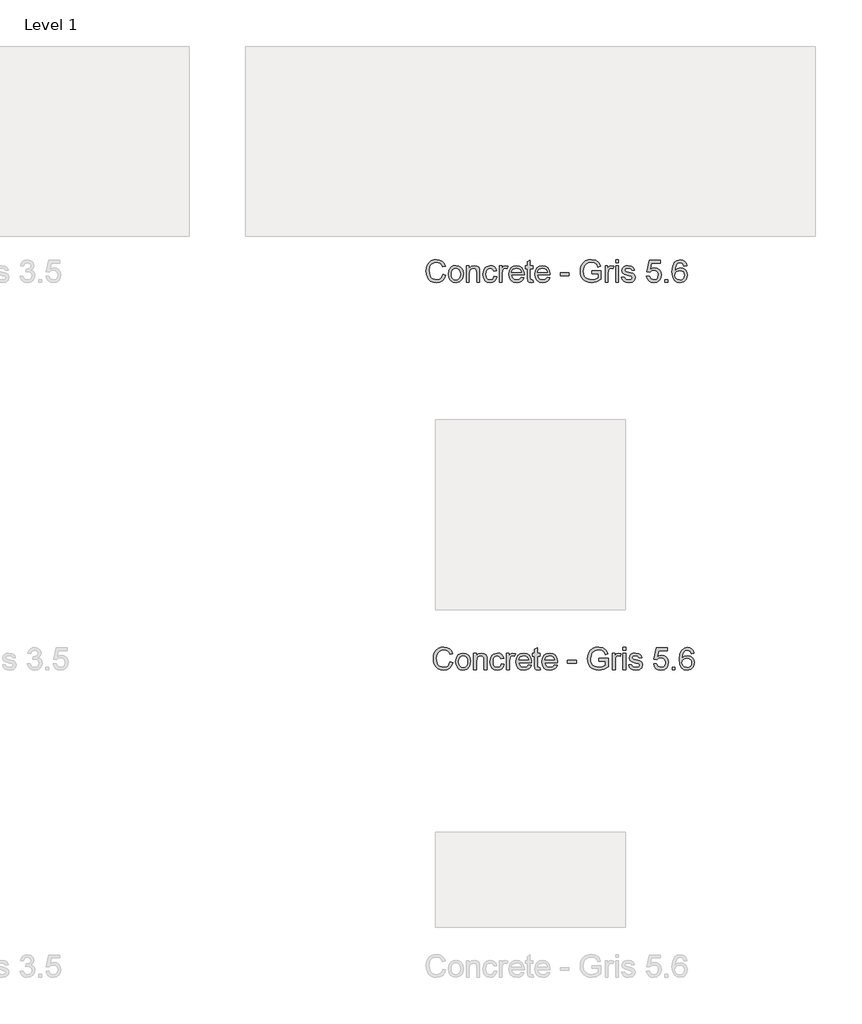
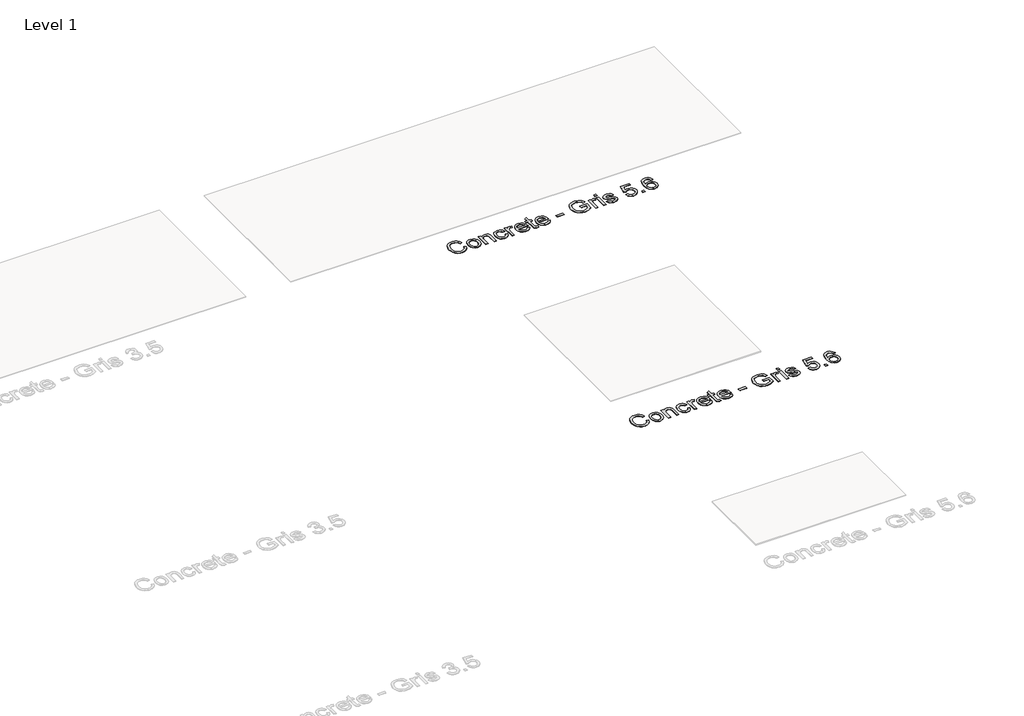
# One storey, part 52 of 80: 2 proxies.
"""IFC4 building model written with IfcOpenShell, lengths in millimetres."""

from ifc_helpers import new_model, si_unit, origin, origin_with_axes, place, context, project, spatial, polyline, outline, extrude, element, save

model = new_model("IFC4")

# Units and contexts
model_context = context("Model", 3, world=origin())
ifc_project = project(units=[si_unit("LENGTHUNIT", "METRE", prefix="MILLI")], contexts=[model_context])

# Site, building, storey
site = spatial("IfcSite", under=ifc_project)
building = spatial("IfcBuilding", under=site)
storey = spatial("IfcBuildingStorey", under=building, Name="Level 1", Elevation=0.0)

# Proxies
placement = place(None, origin())
element("IfcBuildingElementProxy", 1, Name="24\" Arial", ObjectType="24\" Arial", at=placement, inside=storey, context=model_context, shape_type="SweptSolid", body=[
    extrude(outline(polyline([(-15667.0761079, 10790.728562), (-15652.3068771, 10786.9208697), (-15659.121781, 10769.7105332), (-15669.8164925, 10757.1372159), (-15683.8645694, 10749.4461101), (-15700.7395694, 10746.8824082), (-15717.8705791, 10748.822312), (-15731.4751464, 10754.6420236), (-15741.903031, 10764.1396197), (-15749.5039925, 10777.1131774), (-15754.1446175, 10792.3655813), (-15755.6914925, 10808.6997159), (-15753.9426944, 10825.9280813), (-15748.6963002, 10840.8054851), (-15740.2263483, 10852.8595717), (-15728.8068771, 10861.6179851), (-15715.2636079, 10866.9509178), (-15700.4222617, 10868.728562), (-15684.2287521, 10866.4280813), (-15670.840531, 10859.526639), (-15660.6758675, 10848.4497159), (-15654.153031, 10833.6227928), (-15668.9222617, 10830.103562), (-15674.0424541, 10840.8739947), (-15681.0376464, 10848.2622159), (-15689.9943771, 10852.5350524), (-15700.9991848, 10853.9593313), (-15713.684281, 10852.3800044), (-15724.1049541, 10847.6420236), (-15732.012406, 10840.2429851), (-15737.1578387, 10830.6804851), (-15740.9222617, 10808.728562), (-15736.465531, 10783.2862544), (-15730.7684156, 10773.7850524), (-15722.590531, 10767.0314467), (-15702.2107233, 10761.651639), (-15689.8825983, 10763.4833697), (-15679.6097617, 10768.978562), (-15671.8537521, 10778.0795236), (-15667.0761079, 10790.728562)])), origin_with_axes(), (0.0, 0.0, 1.0), 2.0),
    extrude(outline(polyline([(-15637.5376464, 10792.1131774), (-15634.3429348, 10813.0338505), (-15624.7588002, 10827.7381774), (-15612.9174541, 10834.9425044), (-15598.7395694, 10837.3439467), (-15583.2239444, 10834.4196678), (-15570.8309156, 10825.6468313), (-15562.7071175, 10811.7177447), (-15559.9991848, 10793.3247159), (-15564.7876464, 10767.0458697), (-15578.7347617, 10752.1756774), (-15598.7395694, 10746.8824082), (-15614.4426944, 10749.7958697), (-15626.8213002, 10758.5362544), (-15634.8585598, 10772.7574082), (-15637.5376464, 10792.1131774)]), holes=[polyline([(-15622.7684156, 10792.1420236), (-15621.059281, 10778.775437), (-15615.9318771, 10769.2526005), (-15608.215531, 10763.5518794), (-15598.7395694, 10761.651639), (-15589.3068771, 10763.5626967), (-15581.6049541, 10769.2958697), (-15576.4775502, 10778.9449082), (-15574.7684156, 10792.603562), (-15576.4883675, 10805.5807255), (-15581.6482233, 10814.9737544), (-15589.3609637, 10820.6744755), (-15598.7395694, 10822.5747159), (-15608.215531, 10820.681687), (-15615.9318771, 10815.0026005), (-15621.059281, 10805.5013986), (-15622.7684156, 10792.1420236)])]), origin_with_axes(), (0.0, 0.0, 1.0), 2.0),
    extrude(outline(polyline([(-15543.3838002, 10748.728562), (-15543.3838002, 10835.4977928), (-15528.6145694, 10835.4977928), (-15528.6145694, 10823.3824082), (-15517.3213002, 10833.853562), (-15501.903031, 10837.3439467), (-15487.9559156, 10834.5314467), (-15478.4366848, 10827.1468313), (-15474.0088002, 10816.2862544), (-15473.2299541, 10802.0074082), (-15473.2299541, 10748.728562), (-15487.9991848, 10748.728562), (-15487.9991848, 10800.0170236), (-15489.7011079, 10813.0843313), (-15495.715531, 10819.9929851), (-15505.8549541, 10822.5747159), (-15521.8789925, 10816.776639), (-15526.9306752, 10808.3751967), (-15528.6145694, 10794.7670236), (-15528.6145694, 10748.728562), (-15543.3838002, 10748.728562)])), origin_with_axes(), (0.0, 0.0, 1.0), 2.0),
    extrude(outline(polyline([(-15397.5376464, 10780.1131774), (-15382.7684156, 10778.2670236), (-15386.8862041, 10765.1312063), (-15394.6241848, 10755.2045236), (-15405.2539925, 10748.962937), (-15418.0472617, 10746.8824082), (-15433.7575983, 10749.7850524), (-15446.0424541, 10758.4929851), (-15453.9715406, 10772.6239947), (-15456.6145694, 10791.7958697), (-15452.1001464, 10816.3295236), (-15446.403031, 10825.5278409), (-15438.340531, 10832.0939467), (-15418.2491848, 10837.3439467), (-15405.7696175, 10835.541062), (-15395.7924541, 10830.1324082), (-15388.6350021, 10821.4064467), (-15384.6145694, 10809.651639), (-15399.3838002, 10807.8054851), (-15406.2347617, 10818.8679851), (-15418.1338002, 10822.5747159), (-15427.6782714, 10820.7501967), (-15435.2539925, 10815.276639), (-15440.1975021, 10805.8583697), (-15441.8453387, 10792.1997159), (-15440.2335598, 10778.3571678), (-15435.3982233, 10768.9064467), (-15427.9595214, 10763.4653409), (-15418.5376464, 10761.651639), (-15404.6193771, 10766.1804851), (-15397.5376464, 10780.1131774)])), origin_with_axes(), (0.0, 0.0, 1.0), 2.0),
    extrude(outline(polyline([(-15369.8453387, 10748.728562), (-15369.8453387, 10835.4977928), (-15356.9222617, 10835.4977928), (-15356.9222617, 10822.6612544), (-15347.7491848, 10834.4881774), (-15338.5184156, 10837.3439467), (-15323.6914925, 10832.7862544), (-15328.6241848, 10819.5458697), (-15339.0088002, 10822.5747159), (-15347.3597617, 10819.6612544), (-15352.6818771, 10811.5843313), (-15355.0761079, 10794.3343313), (-15355.0761079, 10748.728562), (-15369.8453387, 10748.728562)])), origin_with_axes(), (0.0, 0.0, 1.0), 2.0),
    extrude(outline(polyline([(-15253.7107233, 10774.5747159), (-15239.2299541, 10772.728562), (-15244.4475021, 10761.8175044), (-15252.7732233, 10753.6612544), (-15264.0196175, 10748.5771197), (-15277.9991848, 10746.8824082), (-15295.3285117, 10749.806687), (-15308.6626464, 10758.5795236), (-15317.1650502, 10772.6312063), (-15319.9991848, 10791.3920236), (-15317.1362041, 10810.7838505), (-15308.5472617, 10825.2862544), (-15295.3934156, 10834.3295236), (-15278.8357233, 10837.3439467), (-15262.793656, 10834.3367351), (-15249.9751464, 10825.3151005), (-15241.5700983, 10810.8415428), (-15238.7684156, 10791.478562), (-15238.8549541, 10787.4977928), (-15305.2299541, 10787.4977928), (-15302.6734637, 10776.4425044), (-15296.7347617, 10768.3151005), (-15288.1638483, 10763.3175044), (-15277.7107233, 10761.651639), (-15263.2299541, 10764.7381774), (-15253.7107233, 10774.5747159)]), holes=[polyline([(-15305.2299541, 10802.2670236), (-15253.5376464, 10802.2670236), (-15259.4511079, 10815.651639), (-15268.0616848, 10820.8439467), (-15278.8934156, 10822.5747159), (-15297.0809156, 10817.0506774), (-15302.8032714, 10810.5927447), (-15305.2299541, 10802.2670236)])]), origin_with_axes(), (0.0, 0.0, 1.0), 2.0),
    extrude(outline(polyline([(-15192.6145694, 10761.0458697), (-15190.7684156, 10748.2958697), (-15201.8164925, 10746.8824082), (-15214.1914925, 10749.3343313), (-15220.3645694, 10755.7670236), (-15222.153031, 10772.526639), (-15222.153031, 10820.728562), (-15233.2299541, 10820.728562), (-15233.2299541, 10835.4977928), (-15222.153031, 10835.4977928), (-15222.153031, 10856.5843313), (-15207.3838002, 10865.2670236), (-15207.3838002, 10835.4977928), (-15192.6145694, 10835.4977928), (-15192.6145694, 10820.728562), (-15207.3838002, 10820.728562), (-15207.3838002, 10772.9593313), (-15206.6049541, 10765.3439467), (-15204.0809156, 10762.6468313), (-15199.0472617, 10761.651639), (-15192.6145694, 10761.0458697)])), origin_with_axes(), (0.0, 0.0, 1.0), 2.0),
    extrude(outline(polyline([(-15117.0953387, 10774.5747159), (-15102.6145694, 10772.728562), (-15107.8321175, 10761.8175044), (-15116.1578387, 10753.6612544), (-15127.4042329, 10748.5771197), (-15141.3838002, 10746.8824082), (-15158.7131271, 10749.806687), (-15172.0472617, 10758.5795236), (-15180.5496656, 10772.6312063), (-15183.3838002, 10791.3920236), (-15180.5208194, 10810.7838505), (-15171.9318771, 10825.2862544), (-15158.778031, 10834.3295236), (-15142.2203387, 10837.3439467), (-15126.1782714, 10834.3367351), (-15113.3597617, 10825.3151005), (-15104.9547137, 10810.8415428), (-15102.153031, 10791.478562), (-15102.2395694, 10787.4977928), (-15168.6145694, 10787.4977928), (-15166.0580791, 10776.4425044), (-15160.1193771, 10768.3151005), (-15151.5484637, 10763.3175044), (-15141.0953387, 10761.651639), (-15126.6145694, 10764.7381774), (-15117.0953387, 10774.5747159)]), holes=[polyline([(-15168.6145694, 10802.2670236), (-15116.9222617, 10802.2670236), (-15122.8357233, 10815.651639), (-15131.4463002, 10820.8439467), (-15142.278031, 10822.5747159), (-15160.465531, 10817.0506774), (-15166.1878867, 10810.5927447), (-15168.6145694, 10802.2670236)])]), origin_with_axes(), (0.0, 0.0, 1.0), 2.0),
    extrude(outline(polyline([(-15048.6145694, 10783.8054851), (-15048.6145694, 10798.5747159), (-15002.4607233, 10798.5747159), (-15002.4607233, 10783.8054851), (-15048.6145694, 10783.8054851)])), origin_with_axes(), (0.0, 0.0, 1.0), 2.0),
    extrude(outline(polyline([(-14882.4607233, 10794.8824082), (-14882.4607233, 10809.651639), (-14834.4607233, 10809.651639), (-14834.4607233, 10765.4881774), (-14858.1578387, 10751.5554851), (-14883.2107233, 10746.8824082), (-14899.7792329, 10748.7393794), (-14914.7539925, 10754.3102928), (-14927.1938964, 10763.400437), (-14936.1578387, 10775.8151005), (-14941.5773098, 10790.7069274), (-14943.3838002, 10807.228562), (-14941.5845214, 10823.869187), (-14936.1866848, 10839.3487544), (-14927.4138483, 10852.3331294), (-14915.4895694, 10861.4881774), (-14900.965531, 10866.9184659), (-14884.3934156, 10868.728562), (-14861.2876464, 10864.5314467), (-14845.090531, 10852.8487544), (-14836.1626464, 10833.3054851), (-14849.778031, 10829.4689467), (-14856.5136079, 10843.1276005), (-14868.0232233, 10851.0026005), (-14884.6241848, 10853.9593313), (-14903.5328387, 10850.7718313), (-14916.3982233, 10842.4064467), (-14923.9991848, 10831.026639), (-14928.6145694, 10807.8343313), (-14927.2263483, 10793.7105332), (-14923.0616848, 10782.089139), (-14916.246781, 10773.0530813), (-14906.9078387, 10766.6852928), (-14884.3934156, 10761.651639), (-14864.1866848, 10765.4449082), (-14849.2299541, 10773.5362544), (-14849.2299541, 10794.8824082), (-14882.4607233, 10794.8824082)])), origin_with_axes(), (0.0, 0.0, 1.0), 2.0),
    extrude(outline(polyline([(-14812.3068771, 10748.728562), (-14812.3068771, 10835.4977928), (-14799.3838002, 10835.4977928), (-14799.3838002, 10822.6612544), (-14790.2107233, 10834.4881774), (-14780.9799541, 10837.3439467), (-14766.153031, 10832.7862544), (-14771.0857233, 10819.5458697), (-14781.4703387, 10822.5747159), (-14789.8213002, 10819.6612544), (-14795.1434156, 10811.5843313), (-14797.5376464, 10794.3343313), (-14797.5376464, 10748.728562), (-14812.3068771, 10748.728562)])), origin_with_axes(), (0.0, 0.0, 1.0), 2.0),
    extrude(outline(polyline([(-14756.9222617, 10852.1131774), (-14756.9222617, 10866.8824082), (-14742.153031, 10866.8824082), (-14742.153031, 10852.1131774), (-14756.9222617, 10852.1131774)])), origin_with_axes(), (0.0, 0.0, 1.0), 2.0),
    extrude(outline(polyline([(-14756.9222617, 10748.728562), (-14756.9222617, 10835.4977928), (-14742.153031, 10835.4977928), (-14742.153031, 10748.728562), (-14756.9222617, 10748.728562)])), origin_with_axes(), (0.0, 0.0, 1.0), 2.0),
    extrude(outline(polyline([(-14725.5376464, 10774.5747159), (-14710.7684156, 10776.4208697), (-14703.9318771, 10765.4593313), (-14688.2684156, 10761.651639), (-14673.2107233, 10765.1420236), (-14668.3068771, 10773.3343313), (-14673.2395694, 10779.9689467), (-14688.4414925, 10784.1804851), (-14710.6818771, 10791.4064467), (-14720.3886079, 10799.8439467), (-14723.6914925, 10811.7574082), (-14721.0376464, 10822.7622159), (-14713.7972617, 10831.1708697), (-14704.4078387, 10835.541062), (-14691.7011079, 10837.3439467), (-14673.7299541, 10834.4449082), (-14662.3068771, 10826.5987544), (-14657.2299541, 10813.3439467), (-14671.9991848, 10811.4977928), (-14677.5520694, 10819.6468313), (-14690.5472617, 10822.5747159), (-14704.6818771, 10819.776639), (-14708.9222617, 10813.2574082), (-14707.1626464, 10808.9593313), (-14701.653031, 10805.6997159), (-14688.9318771, 10802.5554851), (-14667.2539925, 10795.603562), (-14657.1866848, 10787.728562), (-14653.5376464, 10774.8920236), (-14657.8213002, 10760.7574082), (-14670.1818771, 10750.5026005), (-14688.4703387, 10746.8824082), (-14703.3621656, 10748.6276005), (-14714.2299541, 10753.8631774), (-14721.4847617, 10762.5314467), (-14725.5376464, 10774.5747159)])), origin_with_axes(), (0.0, 0.0, 1.0), 2.0),
    extrude(outline(polyline([(-14594.4607233, 10780.1131774), (-14579.6914925, 10781.9593313), (-14572.2491848, 10766.7429851), (-14556.8164925, 10761.651639), (-14546.2299541, 10763.4220717), (-14538.2972617, 10768.7333697), (-14533.3429348, 10776.9725524), (-14531.6914925, 10787.526639), (-14533.2383675, 10797.464139), (-14537.8789925, 10805.0651005), (-14545.6494252, 10809.8896197), (-14556.5857233, 10811.4977928), (-14569.5520694, 10808.9304851), (-14577.8453387, 10802.2670236), (-14592.6145694, 10804.1131774), (-14579.6914925, 10865.0362544), (-14522.4607233, 10865.0362544), (-14522.4607233, 10850.2670236), (-14567.7491848, 10850.2670236), (-14574.0664925, 10817.728562), (-14563.5160117, 10824.1324082), (-14552.4607233, 10826.2670236), (-14538.6614444, 10823.620389), (-14527.2059156, 10815.6804851), (-14519.4931752, 10803.5795236), (-14516.9222617, 10788.4497159), (-14519.2371656, 10773.6804851), (-14526.1818771, 10761.0458697), (-14539.4799541, 10750.4232736), (-14556.8741848, 10746.8824082), (-14571.3801944, 10749.1576486), (-14582.9366848, 10755.9833697), (-14590.8585598, 10766.5663024), (-14594.4607233, 10780.1131774)])), origin_with_axes(), (0.0, 0.0, 1.0), 2.0),
    extrude(outline(polyline([(-14496.6145694, 10748.728562), (-14496.6145694, 10763.4977928), (-14481.8453387, 10763.4977928), (-14481.8453387, 10748.728562), (-14496.6145694, 10748.728562)])), origin_with_axes(), (0.0, 0.0, 1.0), 2.0),
    extrude(outline(polyline([(-14382.153031, 10835.4977928), (-14396.9222617, 10833.651639), (-14402.5184156, 10845.9689467), (-14409.2179348, 10850.5771197), (-14417.3164925, 10852.1131774), (-14430.6434156, 10848.5362544), (-14440.7251464, 10835.1083697), (-14444.9222617, 10808.7862544), (-14431.8982233, 10820.5699082), (-14415.7588002, 10824.4208697), (-14402.1145694, 10821.7886582), (-14390.6626464, 10813.8920236), (-14382.8958194, 10801.8271197), (-14380.3068771, 10786.6901005), (-14385.1818771, 10766.3102928), (-14398.5953387, 10751.8872159), (-14417.9511079, 10746.8824082), (-14434.7071175, 10750.1997159), (-14448.0520694, 10760.151639), (-14456.7816367, 10777.7189467), (-14459.6914925, 10803.8824082), (-14456.4607233, 10833.2982736), (-14446.7684156, 10853.4112544), (-14433.5352425, 10863.5146197), (-14416.3934156, 10866.8824082), (-14403.434281, 10864.7982736), (-14393.0568771, 10858.5458697), (-14385.7876464, 10848.6155813), (-14382.153031, 10835.4977928)]), holes=[polyline([(-14444.9222617, 10786.9208697), (-14441.5039925, 10774.1276005), (-14432.4174541, 10764.839139), (-14419.1049541, 10761.651639), (-14409.3585598, 10763.3030813), (-14401.6963002, 10768.2574082), (-14396.731156, 10776.0458697), (-14395.0761079, 10786.1997159), (-14396.7095214, 10795.9461101), (-14401.6097617, 10803.3776005), (-14409.4018291, 10808.0831294), (-14419.7107233, 10809.651639), (-14429.4426944, 10808.0831294), (-14437.5809156, 10803.3776005), (-14443.0869252, 10796.1263986), (-14444.9222617, 10786.9208697)])]), origin_with_axes(), (0.0, 0.0, 1.0), 2.0),
])
element("IfcBuildingElementProxy", 2, Name="24\" Arial", ObjectType="24\" Arial", at=placement, inside=storey, context=model_context, shape_type="SweptSolid", body=[
    extrude(outline(polyline([(-15629.1573911, 8750.084666), (-15614.3881604, 8746.2769737), (-15621.2030642, 8729.0666372), (-15631.8977757, 8716.4933199), (-15645.9458527, 8708.8022141), (-15662.8208527, 8706.2385122), (-15679.9518623, 8708.178416), (-15693.5564296, 8713.9981275), (-15703.9843142, 8723.4957237), (-15711.5852757, 8736.4692814), (-15716.2259007, 8751.7216852), (-15717.7727757, 8768.0558199), (-15716.0239777, 8785.2841852), (-15710.7775834, 8800.1615891), (-15702.3076315, 8812.2156756), (-15690.8881604, 8820.9740891), (-15677.3448911, 8826.3070218), (-15662.503545, 8828.084666), (-15646.3100354, 8825.7841852), (-15632.9218142, 8818.8827429), (-15622.7571507, 8807.8058199), (-15616.2343142, 8792.9788968), (-15631.003545, 8789.459666), (-15636.1237373, 8800.2300987), (-15643.1189296, 8807.6183199), (-15652.0756604, 8811.8911564), (-15663.0804681, 8813.3154352), (-15675.7655642, 8811.7361083), (-15686.1862373, 8806.9981275), (-15694.0936892, 8799.5990891), (-15699.2391219, 8790.0365891), (-15703.003545, 8768.084666), (-15698.5468142, 8742.6423583), (-15692.8496988, 8733.1411564), (-15684.6718142, 8726.3875506), (-15664.2920065, 8721.0077429), (-15651.9638815, 8722.8394737), (-15641.691045, 8728.334666), (-15633.9350354, 8737.4356275), (-15629.1573911, 8750.084666)])), origin_with_axes(), (0.0, 0.0, 1.0), 2.0),
    extrude(outline(polyline([(-15599.6189296, 8751.4692814), (-15596.4242181, 8772.3899545), (-15586.8400834, 8787.0942814), (-15574.9987373, 8794.2986083), (-15560.8208527, 8796.7000506), (-15545.3052277, 8793.7757718), (-15532.9121988, 8785.0029352), (-15524.7884007, 8771.0738487), (-15522.0804681, 8752.6808199), (-15526.8689296, 8726.4019737), (-15540.816045, 8711.5317814), (-15560.8208527, 8706.2385122), (-15576.5239777, 8709.1519737), (-15588.9025834, 8717.8923583), (-15596.9398431, 8732.1135122), (-15599.6189296, 8751.4692814)]), holes=[polyline([(-15584.8496988, 8751.4981275), (-15583.1405642, 8738.131541), (-15578.0131604, 8728.6087045), (-15570.2968142, 8722.9079833), (-15560.8208527, 8721.0077429), (-15551.3881604, 8722.9188006), (-15543.6862373, 8728.6519737), (-15538.5588334, 8738.3010122), (-15536.8496988, 8751.959666), (-15538.5696507, 8764.9368295), (-15543.7295065, 8774.3298583), (-15551.4422469, 8780.0305795), (-15560.8208527, 8781.9308199), (-15570.2968142, 8780.037791), (-15578.0131604, 8774.3587045), (-15583.1405642, 8764.8575025), (-15584.8496988, 8751.4981275)])]), origin_with_axes(), (0.0, 0.0, 1.0), 2.0),
    extrude(outline(polyline([(-15505.4650834, 8708.084666), (-15505.4650834, 8794.8538968), (-15490.6958527, 8794.8538968), (-15490.6958527, 8782.7385122), (-15479.4025834, 8793.209666), (-15463.9843142, 8796.7000506), (-15450.0371988, 8793.8875506), (-15440.5179681, 8786.5029352), (-15436.0900834, 8775.6423583), (-15435.3112373, 8761.3635122), (-15435.3112373, 8708.084666), (-15450.0804681, 8708.084666), (-15450.0804681, 8759.3731275), (-15451.7823911, 8772.4404352), (-15457.7968142, 8779.3490891), (-15467.9362373, 8781.9308199), (-15483.9602757, 8776.1327429), (-15489.0119584, 8767.7313006), (-15490.6958527, 8754.1231275), (-15490.6958527, 8708.084666), (-15505.4650834, 8708.084666)])), origin_with_axes(), (0.0, 0.0, 1.0), 2.0),
    extrude(outline(polyline([(-15359.6189296, 8739.4692814), (-15344.8496988, 8737.6231275), (-15348.9674873, 8724.4873102), (-15356.7054681, 8714.5606275), (-15367.3352757, 8708.319041), (-15380.128545, 8706.2385122), (-15395.8388815, 8709.1411564), (-15408.1237373, 8717.8490891), (-15416.0528238, 8731.9800987), (-15418.6958527, 8751.1519737), (-15414.1814296, 8775.6856275), (-15408.4843142, 8784.8839449), (-15400.4218142, 8791.4500506), (-15380.3304681, 8796.7000506), (-15367.8509007, 8794.897166), (-15357.8737373, 8789.4885122), (-15350.7162854, 8780.7625506), (-15346.6958527, 8769.0077429), (-15361.4650834, 8767.1615891), (-15368.316045, 8778.2240891), (-15380.2150834, 8781.9308199), (-15389.7595546, 8780.1063006), (-15397.3352757, 8774.6327429), (-15402.2787854, 8765.2144737), (-15403.9266219, 8751.5558199), (-15402.3148431, 8737.7132718), (-15397.4795065, 8728.2625506), (-15390.0408046, 8722.8214449), (-15380.6189296, 8721.0077429), (-15366.7006604, 8725.5365891), (-15359.6189296, 8739.4692814)])), origin_with_axes(), (0.0, 0.0, 1.0), 2.0),
    extrude(outline(polyline([(-15331.9266219, 8708.084666), (-15331.9266219, 8794.8538968), (-15319.003545, 8794.8538968), (-15319.003545, 8782.0173583), (-15309.8304681, 8793.8442814), (-15300.5996988, 8796.7000506), (-15285.7727757, 8792.1423583), (-15290.7054681, 8778.9019737), (-15301.0900834, 8781.9308199), (-15309.441045, 8779.0173583), (-15314.7631604, 8770.9404352), (-15317.1573911, 8753.6904352), (-15317.1573911, 8708.084666), (-15331.9266219, 8708.084666)])), origin_with_axes(), (0.0, 0.0, 1.0), 2.0),
    extrude(outline(polyline([(-15215.7920065, 8733.9308199), (-15201.3112373, 8732.084666), (-15206.5287854, 8721.1736083), (-15214.8545065, 8713.0173583), (-15226.1009007, 8707.9332237), (-15240.0804681, 8706.2385122), (-15257.409795, 8709.162791), (-15270.7439296, 8717.9356275), (-15279.2463334, 8731.9873102), (-15282.0804681, 8750.7481275), (-15279.2174873, 8770.1399545), (-15270.628545, 8784.6423583), (-15257.4746988, 8793.6856275), (-15240.9170065, 8796.7000506), (-15224.8749392, 8793.6928391), (-15212.0564296, 8784.6712045), (-15203.6513815, 8770.1976468), (-15200.8496988, 8750.834666), (-15200.9362373, 8746.8538968), (-15267.3112373, 8746.8538968), (-15264.7547469, 8735.7986083), (-15258.816045, 8727.6712045), (-15250.2451315, 8722.6736083), (-15239.7920065, 8721.0077429), (-15225.3112373, 8724.0942814), (-15215.7920065, 8733.9308199)]), holes=[polyline([(-15267.3112373, 8761.6231275), (-15215.6189296, 8761.6231275), (-15221.5323911, 8775.0077429), (-15230.1429681, 8780.2000506), (-15240.9746988, 8781.9308199), (-15259.1621988, 8776.4067814), (-15264.8845546, 8769.9488487), (-15267.3112373, 8761.6231275)])]), origin_with_axes(), (0.0, 0.0, 1.0), 2.0),
    extrude(outline(polyline([(-15154.6958527, 8720.4019737), (-15152.8496988, 8707.6519737), (-15163.8977757, 8706.2385122), (-15176.2727757, 8708.6904352), (-15182.4458527, 8715.1231275), (-15184.2343142, 8731.8827429), (-15184.2343142, 8780.084666), (-15195.3112373, 8780.084666), (-15195.3112373, 8794.8538968), (-15184.2343142, 8794.8538968), (-15184.2343142, 8815.9404352), (-15169.4650834, 8824.6231275), (-15169.4650834, 8794.8538968), (-15154.6958527, 8794.8538968), (-15154.6958527, 8780.084666), (-15169.4650834, 8780.084666), (-15169.4650834, 8732.3154352), (-15168.6862373, 8724.7000506), (-15166.1621988, 8722.0029352), (-15161.128545, 8721.0077429), (-15154.6958527, 8720.4019737)])), origin_with_axes(), (0.0, 0.0, 1.0), 2.0),
    extrude(outline(polyline([(-15079.1766219, 8733.9308199), (-15064.6958527, 8732.084666), (-15069.9134007, 8721.1736083), (-15078.2391219, 8713.0173583), (-15089.4855161, 8707.9332237), (-15103.4650834, 8706.2385122), (-15120.7944104, 8709.162791), (-15134.128545, 8717.9356275), (-15142.6309488, 8731.9873102), (-15145.4650834, 8750.7481275), (-15142.6021027, 8770.1399545), (-15134.0131604, 8784.6423583), (-15120.8593142, 8793.6856275), (-15104.3016219, 8796.7000506), (-15088.2595546, 8793.6928391), (-15075.441045, 8784.6712045), (-15067.0359969, 8770.1976468), (-15064.2343142, 8750.834666), (-15064.3208527, 8746.8538968), (-15130.6958527, 8746.8538968), (-15128.1393623, 8735.7986083), (-15122.2006604, 8727.6712045), (-15113.6297469, 8722.6736083), (-15103.1766219, 8721.0077429), (-15088.6958527, 8724.0942814), (-15079.1766219, 8733.9308199)]), holes=[polyline([(-15130.6958527, 8761.6231275), (-15079.003545, 8761.6231275), (-15084.9170065, 8775.0077429), (-15093.5275834, 8780.2000506), (-15104.3593142, 8781.9308199), (-15122.5468142, 8776.4067814), (-15128.26917, 8769.9488487), (-15130.6958527, 8761.6231275)])]), origin_with_axes(), (0.0, 0.0, 1.0), 2.0),
    extrude(outline(polyline([(-15010.6958527, 8743.1615891), (-15010.6958527, 8757.9308199), (-14964.5420065, 8757.9308199), (-14964.5420065, 8743.1615891), (-15010.6958527, 8743.1615891)])), origin_with_axes(), (0.0, 0.0, 1.0), 2.0),
    extrude(outline(polyline([(-14844.5420065, 8754.2385122), (-14844.5420065, 8769.0077429), (-14796.5420065, 8769.0077429), (-14796.5420065, 8724.8442814), (-14820.2391219, 8710.9115891), (-14845.2920065, 8706.2385122), (-14861.8605161, 8708.0954833), (-14876.8352757, 8713.6663968), (-14889.2751796, 8722.756541), (-14898.2391219, 8735.1712045), (-14903.6585931, 8750.0630314), (-14905.4650834, 8766.584666), (-14903.6658046, 8783.225291), (-14898.2679681, 8798.7048583), (-14889.4951315, 8811.6892333), (-14877.5708527, 8820.8442814), (-14863.0468142, 8826.2745699), (-14846.4746988, 8828.084666), (-14823.3689296, 8823.8875506), (-14807.1718142, 8812.2048583), (-14798.2439296, 8792.6615891), (-14811.8593142, 8788.8250506), (-14818.5948911, 8802.4837045), (-14830.1045065, 8810.3587045), (-14846.7054681, 8813.3154352), (-14865.6141219, 8810.1279352), (-14878.4795065, 8801.7625506), (-14886.0804681, 8790.3827429), (-14890.6958527, 8767.1904352), (-14889.3076315, 8753.0666372), (-14885.1429681, 8741.4452429), (-14878.3280642, 8732.4091852), (-14868.9891219, 8726.0413968), (-14846.4746988, 8721.0077429), (-14826.2679681, 8724.8010122), (-14811.3112373, 8732.8923583), (-14811.3112373, 8754.2385122), (-14844.5420065, 8754.2385122)])), origin_with_axes(), (0.0, 0.0, 1.0), 2.0),
    extrude(outline(polyline([(-14774.3881604, 8708.084666), (-14774.3881604, 8794.8538968), (-14761.4650834, 8794.8538968), (-14761.4650834, 8782.0173583), (-14752.2920065, 8793.8442814), (-14743.0612373, 8796.7000506), (-14728.2343142, 8792.1423583), (-14733.1670065, 8778.9019737), (-14743.5516219, 8781.9308199), (-14751.9025834, 8779.0173583), (-14757.2246988, 8770.9404352), (-14759.6189296, 8753.6904352), (-14759.6189296, 8708.084666), (-14774.3881604, 8708.084666)])), origin_with_axes(), (0.0, 0.0, 1.0), 2.0),
    extrude(outline(polyline([(-14719.003545, 8811.4692814), (-14719.003545, 8826.2385122), (-14704.2343142, 8826.2385122), (-14704.2343142, 8811.4692814), (-14719.003545, 8811.4692814)])), origin_with_axes(), (0.0, 0.0, 1.0), 2.0),
    extrude(outline(polyline([(-14719.003545, 8708.084666), (-14719.003545, 8794.8538968), (-14704.2343142, 8794.8538968), (-14704.2343142, 8708.084666), (-14719.003545, 8708.084666)])), origin_with_axes(), (0.0, 0.0, 1.0), 2.0),
    extrude(outline(polyline([(-14687.6189296, 8733.9308199), (-14672.8496988, 8735.7769737), (-14666.0131604, 8724.8154352), (-14650.3496988, 8721.0077429), (-14635.2920065, 8724.4981275), (-14630.3881604, 8732.6904352), (-14635.3208527, 8739.3250506), (-14650.5227757, 8743.5365891), (-14672.7631604, 8750.7625506), (-14682.4698911, 8759.2000506), (-14685.7727757, 8771.1135122), (-14683.1189296, 8782.1183199), (-14675.878545, 8790.5269737), (-14666.4891219, 8794.897166), (-14653.7823911, 8796.7000506), (-14635.8112373, 8793.8010122), (-14624.3881604, 8785.9548583), (-14619.3112373, 8772.7000506), (-14634.0804681, 8770.8538968), (-14639.6333527, 8779.0029352), (-14652.628545, 8781.9308199), (-14666.7631604, 8779.1327429), (-14671.003545, 8772.6135122), (-14669.2439296, 8768.3154352), (-14663.7343142, 8765.0558199), (-14651.0131604, 8761.9115891), (-14629.3352757, 8754.959666), (-14619.2679681, 8747.084666), (-14615.6189296, 8734.2481275), (-14619.9025834, 8720.1135122), (-14632.2631604, 8709.8587045), (-14650.5516219, 8706.2385122), (-14665.4434488, 8707.9837045), (-14676.3112373, 8713.2192814), (-14683.566045, 8721.8875506), (-14687.6189296, 8733.9308199)])), origin_with_axes(), (0.0, 0.0, 1.0), 2.0),
    extrude(outline(polyline([(-14556.5420065, 8739.4692814), (-14541.7727757, 8741.3154352), (-14534.3304681, 8726.0990891), (-14518.8977757, 8721.0077429), (-14508.3112373, 8722.7781756), (-14500.378545, 8728.0894737), (-14495.4242181, 8736.3286564), (-14493.7727757, 8746.8827429), (-14495.3196507, 8756.8202429), (-14499.9602757, 8764.4212045), (-14507.7307084, 8769.2457237), (-14518.6670065, 8770.8538968), (-14531.6333527, 8768.2865891), (-14539.9266219, 8761.6231275), (-14554.6958527, 8763.4692814), (-14541.7727757, 8824.3923583), (-14484.5420065, 8824.3923583), (-14484.5420065, 8809.6231275), (-14529.8304681, 8809.6231275), (-14536.1477757, 8777.084666), (-14525.597295, 8783.4885122), (-14514.5420065, 8785.6231275), (-14500.7427277, 8782.9764929), (-14489.2871988, 8775.0365891), (-14481.5744584, 8762.9356275), (-14479.003545, 8747.8058199), (-14481.3184488, 8733.0365891), (-14488.2631604, 8720.4019737), (-14501.5612373, 8709.7793775), (-14518.9554681, 8706.2385122), (-14533.4614777, 8708.5137525), (-14545.0179681, 8715.3394737), (-14552.9398431, 8725.9224064), (-14556.5420065, 8739.4692814)])), origin_with_axes(), (0.0, 0.0, 1.0), 2.0),
    extrude(outline(polyline([(-14458.6958527, 8708.084666), (-14458.6958527, 8722.8538968), (-14443.9266219, 8722.8538968), (-14443.9266219, 8708.084666), (-14458.6958527, 8708.084666)])), origin_with_axes(), (0.0, 0.0, 1.0), 2.0),
    extrude(outline(polyline([(-14344.2343142, 8794.8538968), (-14359.003545, 8793.0077429), (-14364.5996988, 8805.3250506), (-14371.2992181, 8809.9332237), (-14379.3977757, 8811.4692814), (-14392.7246988, 8807.8923583), (-14402.8064296, 8794.4644737), (-14407.003545, 8768.1423583), (-14393.9795065, 8779.9260122), (-14377.8400834, 8783.7769737), (-14364.1958527, 8781.1447622), (-14352.7439296, 8773.2481275), (-14344.9771027, 8761.1832237), (-14342.3881604, 8746.0462045), (-14347.2631604, 8725.6663968), (-14360.6766219, 8711.2433199), (-14380.0323911, 8706.2385122), (-14396.7884007, 8709.5558199), (-14410.1333527, 8719.5077429), (-14418.86292, 8737.0750506), (-14421.7727757, 8763.2385122), (-14418.5420065, 8792.6543775), (-14408.8496988, 8812.7673583), (-14395.6165257, 8822.8707237), (-14378.4746988, 8826.2385122), (-14365.5155642, 8824.1543775), (-14355.1381604, 8817.9019737), (-14347.8689296, 8807.9716852), (-14344.2343142, 8794.8538968)]), holes=[polyline([(-14407.003545, 8746.2769737), (-14403.5852757, 8733.4837045), (-14394.4987373, 8724.1952429), (-14381.1862373, 8721.0077429), (-14371.4398431, 8722.6591852), (-14363.7775834, 8727.6135122), (-14358.8124392, 8735.4019737), (-14357.1573911, 8745.5558199), (-14358.7908046, 8755.3022141), (-14363.691045, 8762.7337045), (-14371.4831123, 8767.4392333), (-14381.7920065, 8769.0077429), (-14391.5239777, 8767.4392333), (-14399.6621988, 8762.7337045), (-14405.1682084, 8755.4825025), (-14407.003545, 8746.2769737)])]), origin_with_axes(), (0.0, 0.0, 1.0), 2.0),
])

save(model, "model.ifc")
